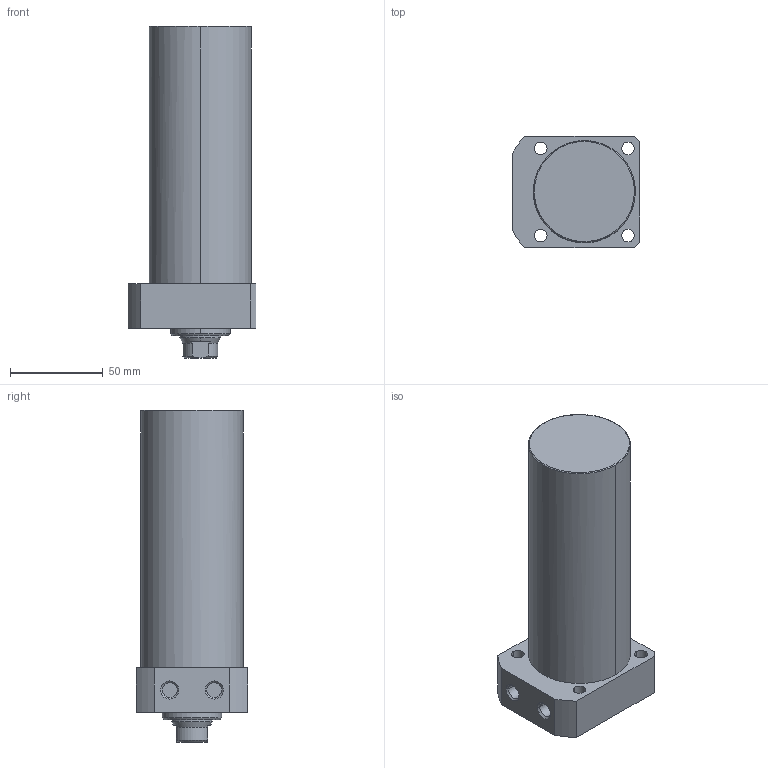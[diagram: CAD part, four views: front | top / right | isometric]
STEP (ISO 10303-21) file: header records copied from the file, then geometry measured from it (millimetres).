
FILE_DESCRIPTION((' '),'2;1');
FILE_NAME( 'TLLR-055CA-110.STEP.stp', '2025-10-24T16:34:42', (' '), ('--- Datakit www.datakit.com---'), ' Datakit CrossCadWare V2024.1 Dec 21 2023', 'Mastercam 2025', ' ');
FILE_SCHEMA(('AUTOMOTIVE_DESIGN { 1 0 10303 214 1 1 1 1 }'));
Length unit declared in the file: millimetre
Products named in the file (1): TLLR-055CA-110
Bounding box: 69 x 60 x 179 mm (x, y, z)
Volume: 427867.8 mm3; surface area: 42304.5 mm2
Topology: 1 solids, 1 shells, 63 faces, 177 edges, 122 vertices
Faces by surface type: cylinder 28, plane 19, cone 14, torus 2
Entity records: 2164 total; most frequent: CARTESIAN_POINT 401, DIRECTION 400, ORIENTED_EDGE 350, EDGE_CURVE 175, AXIS2_PLACEMENT_3D 169, VERTEX_POINT 122, CIRCLE 105, EDGE_LOOP 79
